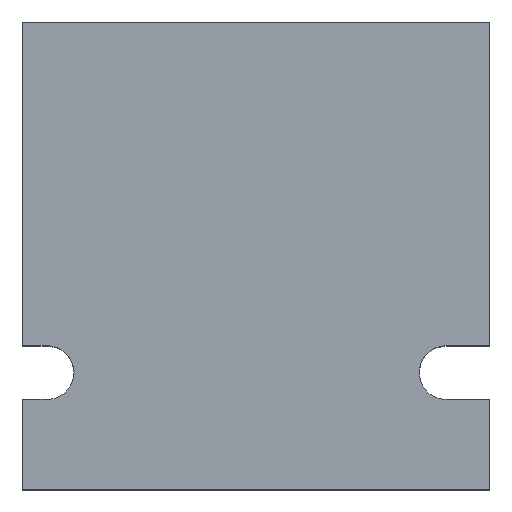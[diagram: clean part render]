
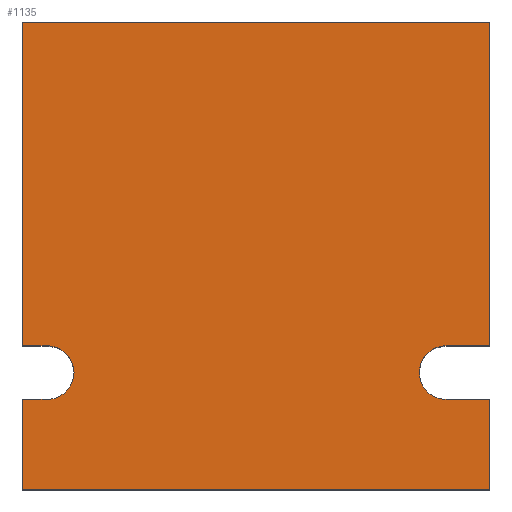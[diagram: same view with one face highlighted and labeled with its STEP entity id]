
A CAD part, top view. The second image highlights one B-rep face of the part: STEP entity #1135.
In plain terms, the highlighted planar face has unit normal (0, 0, 1).
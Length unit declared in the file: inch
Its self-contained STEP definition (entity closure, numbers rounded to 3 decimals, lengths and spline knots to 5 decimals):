
#13=DIRECTION('',(-1.,0.,0.));
#14=VECTOR('',#13,3.);
#15=CARTESIAN_POINT('',(3.,0.,0.));
#16=LINE('',#15,#14);
#31=DIRECTION('',(0.,-1.,0.));
#32=VECTOR('',#31,0.578);
#33=CARTESIAN_POINT('',(0.,-2.422,0.));
#34=LINE('',#33,#32);
#39=DIRECTION('',(0.,-1.,0.));
#40=VECTOR('',#39,2.078);
#41=CARTESIAN_POINT('',(0.,0.,0.));
#42=LINE('',#41,#40);
#111=DIRECTION('',(-1.,0.,0.));
#112=VECTOR('',#111,0.28);
#113=CARTESIAN_POINT('',(3.,-2.078,0.));
#114=LINE('',#113,#112);
#115=CARTESIAN_POINT('',(2.72,-2.25,0.));
#116=DIRECTION('',(0.,0.,1.));
#117=DIRECTION('',(0.,1.,0.));
#118=AXIS2_PLACEMENT_3D('',#115,#116,#117);
#120=DIRECTION('',(-1.,0.,0.));
#121=VECTOR('',#120,0.28);
#122=CARTESIAN_POINT('',(3.,-2.422,0.));
#123=LINE('',#122,#121);
#124=DIRECTION('',(0.,-1.,0.));
#125=VECTOR('',#124,0.578);
#126=CARTESIAN_POINT('',(3.,-2.422,0.));
#127=LINE('',#126,#125);
#128=DIRECTION('',(1.,0.,0.));
#129=VECTOR('',#128,0.16);
#130=CARTESIAN_POINT('',(0.,-2.422,0.));
#131=LINE('',#130,#129);
#132=CARTESIAN_POINT('',(0.16,-2.25,0.));
#133=DIRECTION('',(0.,0.,1.));
#134=DIRECTION('',(0.,-1.,0.));
#135=AXIS2_PLACEMENT_3D('',#132,#133,#134);
#137=DIRECTION('',(1.,0.,0.));
#138=VECTOR('',#137,0.16);
#139=CARTESIAN_POINT('',(0.,-2.078,0.));
#140=LINE('',#139,#138);
#141=DIRECTION('',(0.,-1.,0.));
#142=VECTOR('',#141,2.078);
#143=CARTESIAN_POINT('',(3.,0.,0.));
#144=LINE('',#143,#142);
#149=DIRECTION('',(-1.,0.,0.));
#150=VECTOR('',#149,3.);
#151=CARTESIAN_POINT('',(3.,-3.,0.));
#152=LINE('',#151,#150);
#759=CARTESIAN_POINT('',(0.,0.,0.));
#761=VERTEX_POINT('',#759);
#765=CARTESIAN_POINT('',(3.,0.,0.));
#766=VERTEX_POINT('',#765);
#767=CARTESIAN_POINT('',(0.,-3.,0.));
#769=VERTEX_POINT('',#767);
#773=CARTESIAN_POINT('',(3.,-3.,0.));
#774=VERTEX_POINT('',#773);
#775=CARTESIAN_POINT('',(0.,-2.422,0.));
#777=VERTEX_POINT('',#775);
#779=CARTESIAN_POINT('',(0.,-2.078,0.));
#781=VERTEX_POINT('',#779);
#787=CARTESIAN_POINT('',(0.16,-2.422,0.));
#788=VERTEX_POINT('',#787);
#789=CARTESIAN_POINT('',(0.16,-2.078,0.));
#790=VERTEX_POINT('',#789);
#799=CARTESIAN_POINT('',(3.,-2.078,0.));
#800=VERTEX_POINT('',#799);
#801=CARTESIAN_POINT('',(3.,-2.422,0.));
#802=VERTEX_POINT('',#801);
#803=CARTESIAN_POINT('',(2.72,-2.078,0.));
#804=VERTEX_POINT('',#803);
#805=CARTESIAN_POINT('',(2.72,-2.422,0.));
#806=VERTEX_POINT('',#805);
#1113=CARTESIAN_POINT('',(3.,0.,0.));
#1114=DIRECTION('',(0.,0.,1.));
#1115=DIRECTION('',(-1.,0.,0.));
#1116=AXIS2_PLACEMENT_3D('',#1113,#1114,#1115);
#1117=PLANE('',#1116);
#1118=ORIENTED_EDGE('',*,*,#1045,.T.);
#1119=ORIENTED_EDGE('',*,*,#1060,.T.);
#1120=ORIENTED_EDGE('',*,*,#1074,.F.);
#1121=ORIENTED_EDGE('',*,*,#1108,.T.);
#1123=ORIENTED_EDGE('',*,*,#1122,.T.);
#1124=ORIENTED_EDGE('',*,*,#970,.F.);
#1125=ORIENTED_EDGE('',*,*,#1004,.T.);
#1127=ORIENTED_EDGE('',*,*,#1126,.T.);
#1129=ORIENTED_EDGE('',*,*,#1128,.F.);
#1130=ORIENTED_EDGE('',*,*,#989,.F.);
#1131=ORIENTED_EDGE('',*,*,#952,.F.);
#1132=ORIENTED_EDGE('',*,*,#1086,.T.);
#1133=EDGE_LOOP('',(#1118,#1119,#1120,#1121,#1123,#1124,#1125,#1127,#1129,#1130,
#1131,#1132));
#1134=FACE_OUTER_BOUND('',#1133,.F.);
#1135=ADVANCED_FACE('',(#1134),#1117,.T.);
#119=CIRCLE('',#118,0.172);
#136=CIRCLE('',#135,0.172);
#952=EDGE_CURVE('',#766,#761,#16,.T.);
#970=EDGE_CURVE('',#777,#769,#34,.T.);
#989=EDGE_CURVE('',#761,#781,#42,.T.);
#1004=EDGE_CURVE('',#777,#788,#131,.T.);
#1045=EDGE_CURVE('',#800,#804,#114,.T.);
#1060=EDGE_CURVE('',#804,#806,#119,.T.);
#1074=EDGE_CURVE('',#802,#806,#123,.T.);
#1086=EDGE_CURVE('',#766,#800,#144,.T.);
#1108=EDGE_CURVE('',#802,#774,#127,.T.);
#1122=EDGE_CURVE('',#774,#769,#152,.T.);
#1126=EDGE_CURVE('',#788,#790,#136,.T.);
#1128=EDGE_CURVE('',#781,#790,#140,.T.);
